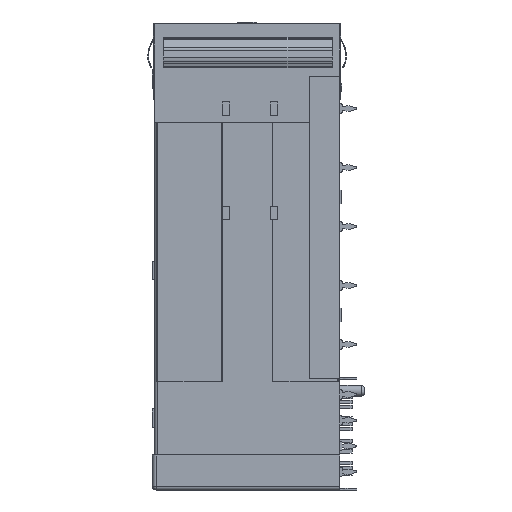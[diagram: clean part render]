
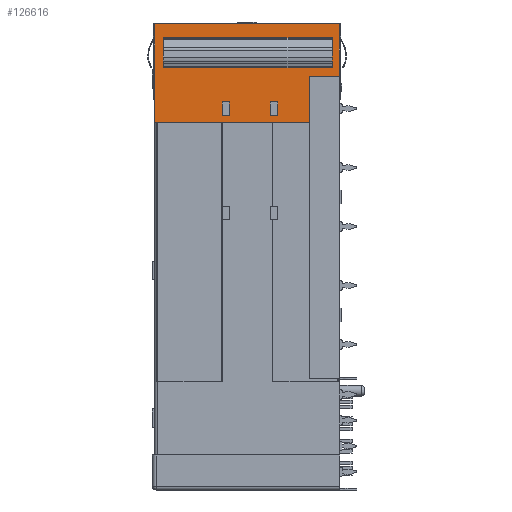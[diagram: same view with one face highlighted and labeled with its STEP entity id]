
A CAD part, left-side view. The second image highlights one B-rep face of the part: STEP entity #126616.
In plain terms, the highlighted planar face has unit normal (-1, 0, 0).
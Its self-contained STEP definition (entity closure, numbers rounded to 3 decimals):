
#1379 = VECTOR ( 'NONE', #17616, 1000. ) ;
#1588 = AXIS2_PLACEMENT_3D ( 'NONE', #130064, #141227, #75085 ) ;
#8114 = EDGE_CURVE ( 'NONE', #40691, #135874, #35364, .T. ) ;
#8857 = FACE_OUTER_BOUND ( 'NONE', #124007, .T. ) ;
#11178 = CARTESIAN_POINT ( 'NONE',  ( -43., 16., -12.4 ) ) ;
#12754 = VECTOR ( 'NONE', #80701, 1000. ) ;
#13030 = VERTEX_POINT ( 'NONE', #67949 ) ;
#13367 = VERTEX_POINT ( 'NONE', #94673 ) ;
#13380 = CARTESIAN_POINT ( 'NONE',  ( -43., 25.1, 0. ) ) ;
#13612 = CARTESIAN_POINT ( 'NONE',  ( -43., 8.45, -12.4 ) ) ;
#15185 = EDGE_CURVE ( 'NONE', #67759, #32043, #56748, .T. ) ;
#15190 = VECTOR ( 'NONE', #118589, 1000. ) ;
#16123 = VERTEX_POINT ( 'NONE', #34243 ) ;
#16189 = CARTESIAN_POINT ( 'NONE',  ( -43., 0.1, 0. ) ) ;
#16203 = VERTEX_POINT ( 'NONE', #57905 ) ;
#17616 = DIRECTION ( 'NONE',  ( 0., 1., 0. ) ) ;
#18390 = ORIENTED_EDGE ( 'NONE', *, *, #43136, .T. ) ;
#19028 = DIRECTION ( 'NONE',  ( 0., 1., 0. ) ) ;
#19072 = LINE ( 'NONE', #19114, #129503 ) ;
#19078 = VERTEX_POINT ( 'NONE', #19750 ) ;
#19114 = CARTESIAN_POINT ( 'NONE',  ( -43., 0., -7.1 ) ) ;
#19750 = CARTESIAN_POINT ( 'NONE',  ( -43., 15., -10.6 ) ) ;
#19978 = CARTESIAN_POINT ( 'NONE',  ( -43., 15., -12.4 ) ) ;
#20480 = VECTOR ( 'NONE', #76626, 1000. ) ;
#23740 = CARTESIAN_POINT ( 'NONE',  ( -43., 0., -12.4 ) ) ;
#24576 = VERTEX_POINT ( 'NONE', #13380 ) ;
#25497 = ORIENTED_EDGE ( 'NONE', *, *, #85828, .T. ) ;
#26656 = CARTESIAN_POINT ( 'NONE',  ( -43., 1.05, -2.181 ) ) ;
#27045 = DIRECTION ( 'NONE',  ( 0., 0., 1. ) ) ;
#27046 = EDGE_CURVE ( 'NONE', #13030, #40691, #123111, .T. ) ;
#28541 = VERTEX_POINT ( 'NONE', #65559 ) ;
#28958 = EDGE_CURVE ( 'NONE', #59751, #13030, #125912, .T. ) ;
#29228 = DIRECTION ( 'NONE',  ( 0., -1., 0. ) ) ;
#30031 = CARTESIAN_POINT ( 'NONE',  ( -43., 25.3, 0. ) ) ;
#30223 = EDGE_CURVE ( 'NONE', #32043, #13367, #66366, .T. ) ;
#31696 = CARTESIAN_POINT ( 'NONE',  ( -43., 15., 0. ) ) ;
#32043 = VERTEX_POINT ( 'NONE', #11178 ) ;
#34115 = VECTOR ( 'NONE', #57873, 1000. ) ;
#34243 = CARTESIAN_POINT ( 'NONE',  ( -43., 23.95, -1.9 ) ) ;
#35364 = LINE ( 'NONE', #23740, #54363 ) ;
#35866 = DIRECTION ( 'NONE',  ( 0., 0., -1. ) ) ;
#37005 = VECTOR ( 'NONE', #27045, 1000. ) ;
#37604 = LINE ( 'NONE', #135047, #34115 ) ;
#37852 = VECTOR ( 'NONE', #29228, 1000. ) ;
#38167 = FACE_BOUND ( 'NONE', #79149, .T. ) ;
#38509 = VECTOR ( 'NONE', #125343, 1000. ) ;
#38659 = DIRECTION ( 'NONE',  ( 0., 0., -1. ) ) ;
#40691 = VERTEX_POINT ( 'NONE', #13612 ) ;
#41012 = CARTESIAN_POINT ( 'NONE',  ( -43., 9.45, -12.4 ) ) ;
#41730 = LINE ( 'NONE', #30031, #119397 ) ;
#43136 = EDGE_CURVE ( 'NONE', #13367, #19078, #77399, .T. ) ;
#43591 = LINE ( 'NONE', #31696, #98754 ) ;
#45170 = ORIENTED_EDGE ( 'NONE', *, *, #117216, .T. ) ;
#47462 = CARTESIAN_POINT ( 'NONE',  ( -43., 1.05, -2.181 ) ) ;
#47901 = ORIENTED_EDGE ( 'NONE', *, *, #15185, .T. ) ;
#48194 = CARTESIAN_POINT ( 'NONE',  ( -43., 8.45, 0. ) ) ;
#52938 = PLANE ( 'NONE',  #1588 ) ;
#53258 = ORIENTED_EDGE ( 'NONE', *, *, #104305, .F. ) ;
#54363 = VECTOR ( 'NONE', #57056, 1000. ) ;
#54906 = VERTEX_POINT ( 'NONE', #111334 ) ;
#56558 = VECTOR ( 'NONE', #60537, 1000. ) ;
#56748 = LINE ( 'NONE', #85070, #82602 ) ;
#57056 = DIRECTION ( 'NONE',  ( 0., 1., 0. ) ) ;
#57497 = ORIENTED_EDGE ( 'NONE', *, *, #73063, .T. ) ;
#57595 = EDGE_CURVE ( 'NONE', #130617, #16123, #60012, .T. ) ;
#57873 = DIRECTION ( 'NONE',  ( 0., -1., 0. ) ) ;
#57905 = CARTESIAN_POINT ( 'NONE',  ( -43., 23.95, -2.181 ) ) ;
#59751 = VERTEX_POINT ( 'NONE', #113953 ) ;
#60012 = LINE ( 'NONE', #61031, #1379 ) ;
#60537 = DIRECTION ( 'NONE',  ( 0., 0., 1. ) ) ;
#61031 = CARTESIAN_POINT ( 'NONE',  ( -43., 1.05, -1.9 ) ) ;
#62122 = EDGE_CURVE ( 'NONE', #122573, #28541, #37604, .T. ) ;
#65559 = CARTESIAN_POINT ( 'NONE',  ( -43., 4.1, -13.4 ) ) ;
#66366 = LINE ( 'NONE', #93099, #37005 ) ;
#67536 = FACE_BOUND ( 'NONE', #111722, .T. ) ;
#67759 = VERTEX_POINT ( 'NONE', #19978 ) ;
#67949 = CARTESIAN_POINT ( 'NONE',  ( -43., 8.45, -10.6 ) ) ;
#71418 = LINE ( 'NONE', #47462, #12754 ) ;
#73063 = EDGE_CURVE ( 'NONE', #102731, #24576, #41730, .T. ) ;
#73145 = CARTESIAN_POINT ( 'NONE',  ( -43., 0., -10.6 ) ) ;
#73245 = CARTESIAN_POINT ( 'NONE',  ( -43., 4.1, -7.1 ) ) ;
#74276 = ORIENTED_EDGE ( 'NONE', *, *, #30223, .T. ) ;
#74560 = DIRECTION ( 'NONE',  ( 0., -1., 0. ) ) ;
#74833 = VECTOR ( 'NONE', #35866, 1000. ) ;
#75085 = DIRECTION ( 'NONE',  ( 0., 0., -1. ) ) ;
#76626 = DIRECTION ( 'NONE',  ( 0., 0., -1. ) ) ;
#77260 = EDGE_LOOP ( 'NONE', ( #94750, #114935, #105845, #89768 ) ) ;
#77399 = LINE ( 'NONE', #129471, #129139 ) ;
#79149 = EDGE_LOOP ( 'NONE', ( #74276, #18390, #109200, #47901 ) ) ;
#80701 = DIRECTION ( 'NONE',  ( 0., 1., 0. ) ) ;
#82432 = VECTOR ( 'NONE', #38659, 1000. ) ;
#82602 = VECTOR ( 'NONE', #19028, 1000. ) ;
#83671 = EDGE_CURVE ( 'NONE', #135874, #59751, #129019, .T. ) ;
#84308 = ORIENTED_EDGE ( 'NONE', *, *, #111728, .T. ) ;
#85070 = CARTESIAN_POINT ( 'NONE',  ( -43., 0., -12.4 ) ) ;
#85291 = CARTESIAN_POINT ( 'NONE',  ( -43., 9.45, 0. ) ) ;
#85828 = EDGE_CURVE ( 'NONE', #90394, #54906, #19072, .T. ) ;
#89768 = ORIENTED_EDGE ( 'NONE', *, *, #8114, .T. ) ;
#89825 = ORIENTED_EDGE ( 'NONE', *, *, #57595, .F. ) ;
#90394 = VERTEX_POINT ( 'NONE', #73245 ) ;
#92072 = DIRECTION ( 'NONE',  ( 0., 0., 1. ) ) ;
#93099 = CARTESIAN_POINT ( 'NONE',  ( -43., 16., 0. ) ) ;
#94673 = CARTESIAN_POINT ( 'NONE',  ( -43., 16., -10.6 ) ) ;
#94750 = ORIENTED_EDGE ( 'NONE', *, *, #83671, .T. ) ;
#96891 = VECTOR ( 'NONE', #92072, 1000. ) ;
#98754 = VECTOR ( 'NONE', #141762, 1000. ) ;
#99206 = ORIENTED_EDGE ( 'NONE', *, *, #113524, .T. ) ;
#101523 = ORIENTED_EDGE ( 'NONE', *, *, #135767, .T. ) ;
#102731 = VERTEX_POINT ( 'NONE', #112259 ) ;
#104305 = EDGE_CURVE ( 'NONE', #16123, #16203, #105014, .T. ) ;
#105014 = LINE ( 'NONE', #109415, #20480 ) ;
#105845 = ORIENTED_EDGE ( 'NONE', *, *, #27046, .T. ) ;
#107229 = DIRECTION ( 'NONE',  ( 0., 1., 0. ) ) ;
#107273 = DIRECTION ( 'NONE',  ( 0., -1., 0. ) ) ;
#109200 = ORIENTED_EDGE ( 'NONE', *, *, #121379, .T. ) ;
#109415 = CARTESIAN_POINT ( 'NONE',  ( -43., 23.95, -1.9 ) ) ;
#111119 = LINE ( 'NONE', #124170, #74833 ) ;
#111334 = CARTESIAN_POINT ( 'NONE',  ( -43., 0.1, -7.1 ) ) ;
#111706 = EDGE_CURVE ( 'NONE', #130617, #137450, #111119, .T. ) ;
#111722 = EDGE_LOOP ( 'NONE', ( #89825, #136133, #84308, #53258 ) ) ;
#111728 = EDGE_CURVE ( 'NONE', #137450, #16203, #71418, .T. ) ;
#112259 = CARTESIAN_POINT ( 'NONE',  ( -43., 0.1, 0. ) ) ;
#113524 = EDGE_CURVE ( 'NONE', #54906, #102731, #136025, .T. ) ;
#113953 = CARTESIAN_POINT ( 'NONE',  ( -43., 9.45, -10.6 ) ) ;
#114935 = ORIENTED_EDGE ( 'NONE', *, *, #28958, .T. ) ;
#115408 = CARTESIAN_POINT ( 'NONE',  ( -43., 25.1, 0. ) ) ;
#116869 = CARTESIAN_POINT ( 'NONE',  ( -43., 1.05, -1.9 ) ) ;
#117216 = EDGE_CURVE ( 'NONE', #28541, #90394, #133271, .T. ) ;
#118589 = DIRECTION ( 'NONE',  ( 0., 0., 1. ) ) ;
#119397 = VECTOR ( 'NONE', #107229, 1000. ) ;
#121379 = EDGE_CURVE ( 'NONE', #19078, #67759, #43591, .T. ) ;
#122323 = ORIENTED_EDGE ( 'NONE', *, *, #62122, .T. ) ;
#122573 = VERTEX_POINT ( 'NONE', #130796 ) ;
#123111 = LINE ( 'NONE', #48194, #38509 ) ;
#124007 = EDGE_LOOP ( 'NONE', ( #45170, #25497, #99206, #57497, #101523, #122323 ) ) ;
#124170 = CARTESIAN_POINT ( 'NONE',  ( -43., 1.05, -1.9 ) ) ;
#125343 = DIRECTION ( 'NONE',  ( 0., 0., -1. ) ) ;
#125435 = CARTESIAN_POINT ( 'NONE',  ( -43., 4.1, 0. ) ) ;
#125912 = LINE ( 'NONE', #73145, #37852 ) ;
#126241 = FACE_BOUND ( 'NONE', #77260, .T. ) ;
#126616 = ADVANCED_FACE ( 'NONE', ( #126241, #38167, #67536, #8857 ), #52938, .F. ) ;
#129019 = LINE ( 'NONE', #85291, #15190 ) ;
#129139 = VECTOR ( 'NONE', #107273, 1000. ) ;
#129471 = CARTESIAN_POINT ( 'NONE',  ( -43., 0., -10.6 ) ) ;
#129503 = VECTOR ( 'NONE', #74560, 1000. ) ;
#130064 = CARTESIAN_POINT ( 'NONE',  ( -43., 0., 0. ) ) ;
#130617 = VERTEX_POINT ( 'NONE', #116869 ) ;
#130796 = CARTESIAN_POINT ( 'NONE',  ( -43., 25.1, -13.4 ) ) ;
#133271 = LINE ( 'NONE', #125435, #96891 ) ;
#135047 = CARTESIAN_POINT ( 'NONE',  ( -43., 25.2, -13.4 ) ) ;
#135767 = EDGE_CURVE ( 'NONE', #24576, #122573, #141152, .T. ) ;
#135874 = VERTEX_POINT ( 'NONE', #41012 ) ;
#136025 = LINE ( 'NONE', #16189, #56558 ) ;
#136133 = ORIENTED_EDGE ( 'NONE', *, *, #111706, .T. ) ;
#137450 = VERTEX_POINT ( 'NONE', #26656 ) ;
#141152 = LINE ( 'NONE', #115408, #82432 ) ;
#141227 = DIRECTION ( 'NONE',  ( 1., 0., 0. ) ) ;
#141762 = DIRECTION ( 'NONE',  ( 0., 0., -1. ) ) ;
